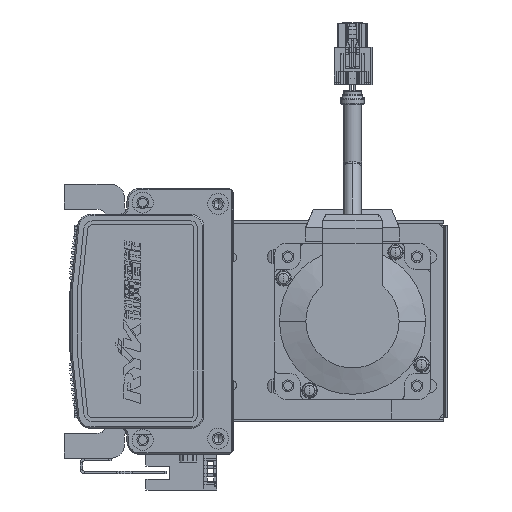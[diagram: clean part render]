
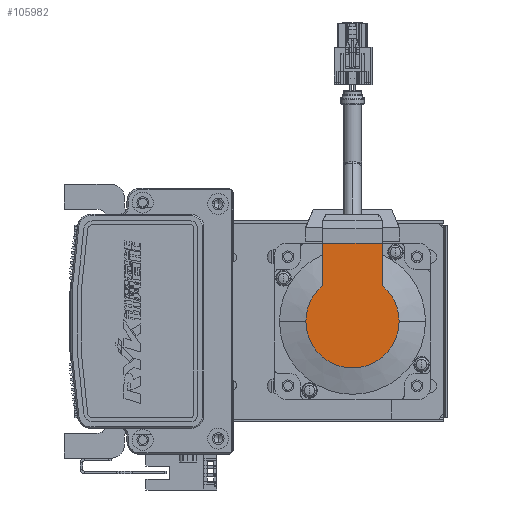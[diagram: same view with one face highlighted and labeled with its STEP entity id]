
A CAD part, left-side view. The second image highlights one B-rep face of the part: STEP entity #105982.
In plain terms, the highlighted planar face has unit normal (-1, 0, 0).
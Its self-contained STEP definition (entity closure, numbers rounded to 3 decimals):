
#11005 = CIRCLE ( 'NONE', #17992, 17.881 ) ;
#13464 = AXIS2_PLACEMENT_3D ( 'NONE', #18759, #18711, #18746 ) ;
#13754 = AXIS2_PLACEMENT_3D ( 'NONE', #49147, #49140, #49156 ) ;
#14313 = VECTOR ( 'NONE', #18108, 1000. ) ;
#14315 = VECTOR ( 'NONE', #18118, 1000. ) ;
#14342 = LINE ( 'NONE', #18180, #14315 ) ;
#14359 = LINE ( 'NONE', #18129, #14313 ) ;
#17992 = AXIS2_PLACEMENT_3D ( 'NONE', #97142, #97157, #97123 ) ;
#18108 = DIRECTION ( 'NONE',  ( 0., -1., 0. ) ) ;
#18118 = DIRECTION ( 'NONE',  ( 0., -1., 0. ) ) ;
#18129 = CARTESIAN_POINT ( 'NONE',  ( -99., -8.941, -11.45 ) ) ;
#18180 = CARTESIAN_POINT ( 'NONE',  ( -99., 0., 11.45 ) ) ;
#18711 = DIRECTION ( 'NONE',  ( -1., 0., 0. ) ) ;
#18746 = DIRECTION ( 'NONE',  ( 0., 0., -1. ) ) ;
#18759 = CARTESIAN_POINT ( 'NONE',  ( -99., 0., 0. ) ) ;
#18897 = CARTESIAN_POINT ( 'NONE',  ( -99., 30., 25. ) ) ;
#18946 = DIRECTION ( 'NONE',  ( 0., 0., 1. ) ) ;
#23314 = CIRCLE ( 'NONE', #13464, 17.881 ) ;
#23433 = LINE ( 'NONE', #18897, #23450 ) ;
#23450 = VECTOR ( 'NONE', #18946, 1000. ) ;
#37404 = ORIENTED_EDGE ( 'NONE', *, *, #67375, .T. ) ;
#37419 = ORIENTED_EDGE ( 'NONE', *, *, #67429, .F. ) ;
#37421 = ORIENTED_EDGE ( 'NONE', *, *, #105160, .T. ) ;
#37432 = ORIENTED_EDGE ( 'NONE', *, *, #67454, .F. ) ;
#37447 = ORIENTED_EDGE ( 'NONE', *, *, #67462, .T. ) ;
#37449 = ORIENTED_EDGE ( 'NONE', *, *, #72998, .T. ) ;
#45410 = PLANE ( 'NONE',  #77564 ) ;
#45414 = CARTESIAN_POINT ( 'NONE',  ( -99., -8.941, 0. ) ) ;
#45416 = CARTESIAN_POINT ( 'NONE',  ( -99., 0., -17.881 ) ) ;
#45418 = DIRECTION ( 'NONE',  ( 0., 0., 1. ) ) ;
#45422 = DIRECTION ( 'NONE',  ( -1., 0., 0. ) ) ;
#49140 = DIRECTION ( 'NONE',  ( -1., 0., 0. ) ) ;
#49147 = CARTESIAN_POINT ( 'NONE',  ( -99., 0., 0. ) ) ;
#49156 = DIRECTION ( 'NONE',  ( 0., 0., -1. ) ) ;
#63917 = FACE_OUTER_BOUND ( 'NONE', #103734, .T. ) ;
#66408 = CIRCLE ( 'NONE', #13754, 17.881 ) ;
#67375 = EDGE_CURVE ( 'NONE', #108272, #108024, #23314, .T. ) ;
#67429 = EDGE_CURVE ( 'NONE', #108251, #108264, #23433, .T. ) ;
#67454 = EDGE_CURVE ( 'NONE', #108264, #108054, #14342, .T. ) ;
#67462 = EDGE_CURVE ( 'NONE', #108251, #108272, #14359, .T. ) ;
#72998 = EDGE_CURVE ( 'NONE', #108024, #108055, #66408, .T. ) ;
#77564 = AXIS2_PLACEMENT_3D ( 'NONE', #45414, #45422, #45418 ) ;
#94148 = CARTESIAN_POINT ( 'NONE',  ( -99., 0., 17.881 ) ) ;
#94156 = CARTESIAN_POINT ( 'NONE',  ( -99., 13.735, 11.45 ) ) ;
#94361 = CARTESIAN_POINT ( 'NONE',  ( -99., 30., 11.45 ) ) ;
#94366 = CARTESIAN_POINT ( 'NONE',  ( -99., 13.735, -11.45 ) ) ;
#94382 = CARTESIAN_POINT ( 'NONE',  ( -99., 30., -11.45 ) ) ;
#97123 = DIRECTION ( 'NONE',  ( 0., 0., -1. ) ) ;
#97142 = CARTESIAN_POINT ( 'NONE',  ( -99., 0., 0. ) ) ;
#97157 = DIRECTION ( 'NONE',  ( -1., 0., 0. ) ) ;
#103734 = EDGE_LOOP ( 'NONE', ( #37447, #37404, #37449, #37421, #37432, #37419 ) ) ;
#105160 = EDGE_CURVE ( 'NONE', #108055, #108054, #11005, .T. ) ;
#105982 = ADVANCED_FACE ( 'NONE', ( #63917 ), #45410, .T. ) ;
#108024 = VERTEX_POINT ( 'NONE', #45416 ) ;
#108054 = VERTEX_POINT ( 'NONE', #94156 ) ;
#108055 = VERTEX_POINT ( 'NONE', #94148 ) ;
#108251 = VERTEX_POINT ( 'NONE', #94382 ) ;
#108264 = VERTEX_POINT ( 'NONE', #94361 ) ;
#108272 = VERTEX_POINT ( 'NONE', #94366 ) ;
